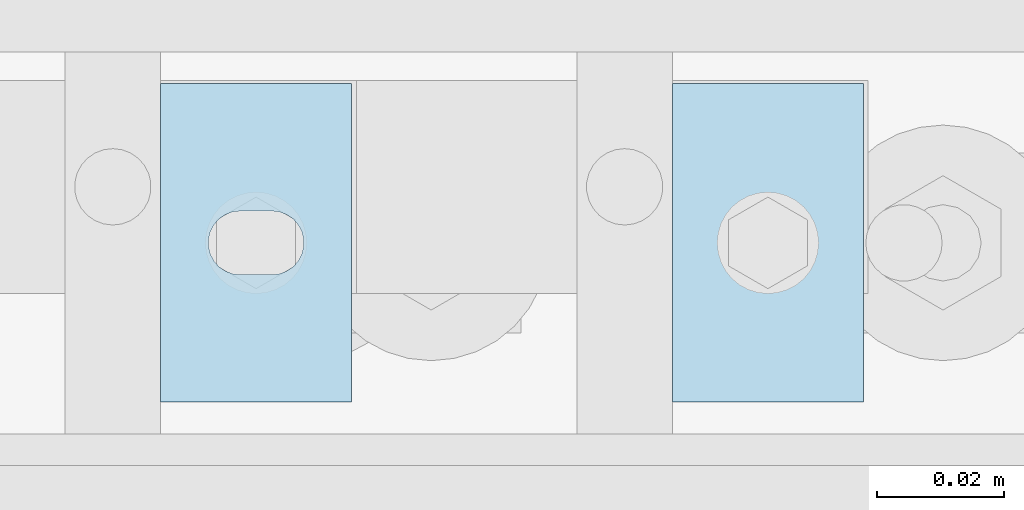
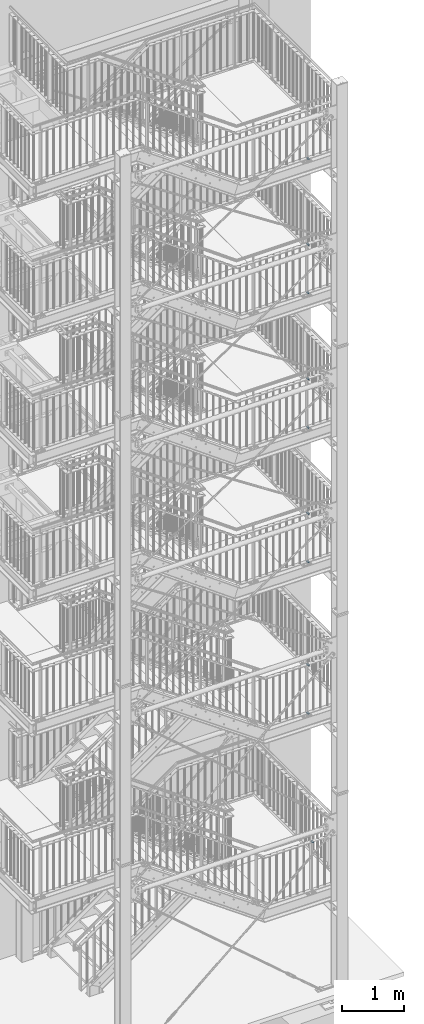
# One storey, part 227 of 825: 10 plates, 10 openings.
"""IFC2X3 building model written with IfcOpenShell, lengths in millimetres."""

from ifc_helpers import new_model, entity, si_unit, converted_unit, point, frame, frame_2d, origin, origin_with_axes, place, context, project, spatial, polyline, circle_curve, line_curve, trimmed, segment, composite_curve, outline, extrude, material, layer, layer_set, element, save


model = new_model("IFC2X3")

# Units and contexts
model_context = context("Model", 3, precision=1e-09, world=origin_with_axes())
ifc_project = project(units=[si_unit("LENGTHUNIT", "METRE", prefix="MILLI"), si_unit("AREAUNIT", "SQUARE_METRE"), si_unit("VOLUMEUNIT", "CUBIC_METRE"), converted_unit("PLANEANGLEUNIT", "DEGREE", entity("IfcPlaneAngleMeasure", 0.01745329), si_unit("PLANEANGLEUNIT", "RADIAN"), dimensions=[0, 0, 0, 0, 0, 0, 0])], contexts=[model_context])

# Site, building, storey
site_placement = place(None, origin_with_axes())
site = spatial("IfcSite", under=ifc_project, at=site_placement, Name="Cnopf'sche Kinderklinik", CompositionType="ELEMENT")
building_placement = place(site_placement, origin_with_axes())
building = spatial("IfcBuilding", under=site, at=building_placement, Name="Struktur 1", CompositionType="ELEMENT")
storey_placement = place(building_placement, origin_with_axes())
storey = spatial("IfcBuildingStorey", under=building, at=storey_placement, Name="Default Storey", CompositionType="ELEMENT", Elevation=0.0)

# Plate, opening
ifc_material = material(Name="S235JR")
ifc_layer = layer(ifc_material, 6.0)
ifc_layer_set = layer_set([ifc_layer], Name="S235JR")
plate_1_placement = place(None, frame((8452.674109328, 4526.736971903, 3183.8526312), z_axis=(0.0, 0.0, 1.0), x_axis=(1.0, 0.0, 0.0)))
plate_1 = element("IfcPlate", 1, at=plate_1_placement, inside=storey, material=ifc_layer_set, Name="-", ObjectType="-", context=model_context, shape_type="SweptSolid", body=[
    extrude(outline(polyline([(-15.0, -25.0), (15.0, -25.0), (15.0, 25.0), (-15.0, 25.0), (-15.0, -25.0)])), origin_with_axes(), (0.0, 0.0, 1.0), 6.0),
])
opening_1_placement = place(plate_1_placement, frame((-1e-09, 0.0, -0.5), z_axis=(0.0, 0.0, 1.0), x_axis=(1.0, 0.0, 0.0)))
element("IfcOpeningElement", 2, at=opening_1_placement, cuts=plate_1, ObjectType="Opening", context=model_context, shape_type="SweptSolid", body=[
    extrude(outline(composite_curve([segment(trimmed(line_curve((-2.5, -5.001), (1.0, 0.0), 5.0), [point((-2.5, -5.001))], [point((2.5, -5.001))], True, "CARTESIAN"), True, "CONTINUOUS"), segment(trimmed(circle_curve(frame_2d((2.5, 0.0), x_axis=(1.0, 0.0)), 5.001), [point((2.5, -5.001))], [point((2.5, 5.001))], True, "CARTESIAN"), True, "CONTINUOUS"), segment(trimmed(line_curve((2.5, 5.001), (-1.0, 0.0), 5.0), [point((2.5, 5.001))], [point((-2.5, 5.001))], True, "CARTESIAN"), True, "CONTINUOUS"), segment(trimmed(circle_curve(frame_2d((-2.5, 0.0), x_axis=(1.0, 0.0)), 5.001), [point((-2.5, 5.001))], [point((-2.5, -5.001))], True, "CARTESIAN"), True, "CONTINUOUS")], self_intersect=False)), origin(), (0.0, 0.0, 1.0), 7.0),
])

plate_2_placement = place(None, frame((8372.292260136, 4526.736971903, 5728.8947367), z_axis=(0.0, 0.0, 1.0), x_axis=(1.0, 0.0, 0.0)))
plate_2 = element("IfcPlate", 3, at=plate_2_placement, inside=storey, material=ifc_layer_set, Name="-", ObjectType="-", context=model_context, shape_type="SweptSolid", body=[
    extrude(outline(polyline([(-15.0, -25.0), (15.0, -25.0), (15.0, 25.0), (-15.0, 25.0), (-15.0, -25.0)])), origin_with_axes(), (0.0, 0.0, 1.0), 6.0),
])
opening_2_placement = place(plate_2_placement, frame((-1e-09, 0.0, -0.5), z_axis=(0.0, 0.0, 1.0), x_axis=(1.0, 0.0, 0.0)))
element("IfcOpeningElement", 4, at=opening_2_placement, cuts=plate_2, ObjectType="Opening", context=model_context, shape_type="SweptSolid", body=[
    extrude(outline(composite_curve([segment(trimmed(line_curve((-2.5, -5.001), (1.0, 0.0), 5.0), [point((-2.5, -5.001))], [point((2.5, -5.001))], True, "CARTESIAN"), True, "CONTINUOUS"), segment(trimmed(circle_curve(frame_2d((2.5, 0.0), x_axis=(1.0, 0.0)), 5.001), [point((2.5, -5.001))], [point((2.5, 5.001))], True, "CARTESIAN"), True, "CONTINUOUS"), segment(trimmed(line_curve((2.5, 5.001), (-1.0, 0.0), 5.0), [point((2.5, 5.001))], [point((-2.5, 5.001))], True, "CARTESIAN"), True, "CONTINUOUS"), segment(trimmed(circle_curve(frame_2d((-2.5, 0.0), x_axis=(1.0, 0.0)), 5.001), [point((-2.5, 5.001))], [point((-2.5, -5.001))], True, "CARTESIAN"), True, "CONTINUOUS")], self_intersect=False)), origin(), (0.0, 0.0, 1.0), 7.0),
])

plate_3_placement = place(None, frame((8372.292260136, 4526.736971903, 6677.6947367), z_axis=(0.0, 0.0, 1.0), x_axis=(1.0, 0.0, 0.0)))
plate_3 = element("IfcPlate", 5, at=plate_3_placement, inside=storey, material=ifc_layer_set, Name="-", ObjectType="-", context=model_context, shape_type="SweptSolid", body=[
    extrude(outline(polyline([(-15.0, -25.0), (15.0, -25.0), (15.0, 25.0), (-15.0, 25.0), (-15.0, -25.0)])), origin_with_axes(), (0.0, 0.0, 1.0), 6.0),
])
opening_3_placement = place(plate_3_placement, frame((-1e-09, 0.0, -0.5), z_axis=(0.0, 0.0, 1.0), x_axis=(1.0, 0.0, 0.0)))
element("IfcOpeningElement", 6, at=opening_3_placement, cuts=plate_3, ObjectType="Opening", context=model_context, shape_type="SweptSolid", body=[
    extrude(outline(composite_curve([segment(trimmed(line_curve((-2.5, -5.001), (1.0, 0.0), 5.0), [point((-2.5, -5.001))], [point((2.5, -5.001))], True, "CARTESIAN"), True, "CONTINUOUS"), segment(trimmed(circle_curve(frame_2d((2.5, 0.0), x_axis=(1.0, 0.0)), 5.001), [point((2.5, -5.001))], [point((2.5, 5.001))], True, "CARTESIAN"), True, "CONTINUOUS"), segment(trimmed(line_curve((2.5, 5.001), (-1.0, 0.0), 5.0), [point((2.5, 5.001))], [point((-2.5, 5.001))], True, "CARTESIAN"), True, "CONTINUOUS"), segment(trimmed(circle_curve(frame_2d((-2.5, 0.0), x_axis=(1.0, 0.0)), 5.001), [point((-2.5, 5.001))], [point((-2.5, -5.001))], True, "CARTESIAN"), True, "CONTINUOUS")], self_intersect=False)), origin(), (0.0, 0.0, 1.0), 7.0),
])

plate_4_placement = place(None, frame((8372.292260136, 4526.736971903, 8690.0), z_axis=(0.0, 0.0, 1.0), x_axis=(1.0, 0.0, 0.0)))
plate_4 = element("IfcPlate", 7, at=plate_4_placement, inside=storey, material=ifc_layer_set, Name="-", ObjectType="-", context=model_context, shape_type="SweptSolid", body=[
    extrude(outline(polyline([(-15.0, -25.0), (15.0, -25.0), (15.0, 25.0), (-15.0, 25.0), (-15.0, -25.0)])), origin_with_axes(), (0.0, 0.0, 1.0), 6.0),
])
opening_4_placement = place(plate_4_placement, frame((-1e-09, 0.0, -0.5), z_axis=(0.0, 0.0, 1.0), x_axis=(1.0, 0.0, 0.0)))
element("IfcOpeningElement", 8, at=opening_4_placement, cuts=plate_4, ObjectType="Opening", context=model_context, shape_type="SweptSolid", body=[
    extrude(outline(composite_curve([segment(trimmed(line_curve((-2.5, -5.001), (1.0, 0.0), 5.0), [point((-2.5, -5.001))], [point((2.5, -5.001))], True, "CARTESIAN"), True, "CONTINUOUS"), segment(trimmed(circle_curve(frame_2d((2.5, 0.0), x_axis=(1.0, 0.0)), 5.001), [point((2.5, -5.001))], [point((2.5, 5.001))], True, "CARTESIAN"), True, "CONTINUOUS"), segment(trimmed(line_curve((2.5, 5.001), (-1.0, 0.0), 5.0), [point((2.5, 5.001))], [point((-2.5, 5.001))], True, "CARTESIAN"), True, "CONTINUOUS"), segment(trimmed(circle_curve(frame_2d((-2.5, 0.0), x_axis=(1.0, 0.0)), 5.001), [point((-2.5, 5.001))], [point((-2.5, -5.001))], True, "CARTESIAN"), True, "CONTINUOUS")], self_intersect=False)), origin(), (0.0, 0.0, 1.0), 7.0),
])

plate_5_placement = place(None, frame((8372.292260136, 4526.736971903, 9638.8), z_axis=(0.0, 0.0, 1.0), x_axis=(1.0, 0.0, 0.0)))
plate_5 = element("IfcPlate", 9, at=plate_5_placement, inside=storey, material=ifc_layer_set, Name="-", ObjectType="-", context=model_context, shape_type="SweptSolid", body=[
    extrude(outline(polyline([(-15.0, -25.0), (15.0, -25.0), (15.0, 25.0), (-15.0, 25.0), (-15.0, -25.0)])), origin_with_axes(), (0.0, 0.0, 1.0), 6.0),
])
opening_5_placement = place(plate_5_placement, frame((-1e-09, 0.0, -0.5), z_axis=(0.0, 0.0, 1.0), x_axis=(1.0, 0.0, 0.0)))
element("IfcOpeningElement", 10, at=opening_5_placement, cuts=plate_5, ObjectType="Opening", context=model_context, shape_type="SweptSolid", body=[
    extrude(outline(composite_curve([segment(trimmed(line_curve((-2.5, -5.001), (1.0, 0.0), 5.0), [point((-2.5, -5.001))], [point((2.5, -5.001))], True, "CARTESIAN"), True, "CONTINUOUS"), segment(trimmed(circle_curve(frame_2d((2.5, 0.0), x_axis=(1.0, 0.0)), 5.001), [point((2.5, -5.001))], [point((2.5, 5.001))], True, "CARTESIAN"), True, "CONTINUOUS"), segment(trimmed(line_curve((2.5, 5.001), (-1.0, 0.0), 5.0), [point((2.5, 5.001))], [point((-2.5, 5.001))], True, "CARTESIAN"), True, "CONTINUOUS"), segment(trimmed(circle_curve(frame_2d((-2.5, 0.0), x_axis=(1.0, 0.0)), 5.001), [point((-2.5, 5.001))], [point((-2.5, -5.001))], True, "CARTESIAN"), True, "CONTINUOUS")], self_intersect=False)), origin(), (0.0, 0.0, 1.0), 7.0),
])

plate_6_placement = place(None, frame((8372.292260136, 4526.736971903, 11319.5000003), z_axis=(0.0, 0.0, 1.0), x_axis=(1.0, 0.0, 0.0)))
plate_6 = element("IfcPlate", 11, at=plate_6_placement, inside=storey, material=ifc_layer_set, Name="-", ObjectType="-", context=model_context, shape_type="SweptSolid", body=[
    extrude(outline(polyline([(-15.0, -25.0), (15.0, -25.0), (15.0, 25.0), (-15.0, 25.0), (-15.0, -25.0)])), origin_with_axes(), (0.0, 0.0, 1.0), 6.0),
])
opening_6_placement = place(plate_6_placement, frame((-1e-09, 0.0, -0.5), z_axis=(0.0, 0.0, 1.0), x_axis=(1.0, 0.0, 0.0)))
element("IfcOpeningElement", 12, at=opening_6_placement, cuts=plate_6, ObjectType="Opening", context=model_context, shape_type="SweptSolid", body=[
    extrude(outline(composite_curve([segment(trimmed(line_curve((-2.5, -5.001), (1.0, 0.0), 5.0), [point((-2.5, -5.001))], [point((2.5, -5.001))], True, "CARTESIAN"), True, "CONTINUOUS"), segment(trimmed(circle_curve(frame_2d((2.5, 0.0), x_axis=(1.0, 0.0)), 5.001), [point((2.5, -5.001))], [point((2.5, 5.001))], True, "CARTESIAN"), True, "CONTINUOUS"), segment(trimmed(line_curve((2.5, 5.001), (-1.0, 0.0), 5.0), [point((2.5, 5.001))], [point((-2.5, 5.001))], True, "CARTESIAN"), True, "CONTINUOUS"), segment(trimmed(circle_curve(frame_2d((-2.5, 0.0), x_axis=(1.0, 0.0)), 5.001), [point((-2.5, 5.001))], [point((-2.5, -5.001))], True, "CARTESIAN"), True, "CONTINUOUS")], self_intersect=False)), origin(), (0.0, 0.0, 1.0), 7.0),
])

plate_7_placement = place(None, frame((8372.292260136, 4526.736971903, 12268.3000003), z_axis=(0.0, 0.0, 1.0), x_axis=(1.0, 0.0, 0.0)))
plate_7 = element("IfcPlate", 13, at=plate_7_placement, inside=storey, material=ifc_layer_set, Name="-", ObjectType="-", context=model_context, shape_type="SweptSolid", body=[
    extrude(outline(polyline([(-15.0, -25.0), (15.0, -25.0), (15.0, 25.0), (-15.0, 25.0), (-15.0, -25.0)])), origin_with_axes(), (0.0, 0.0, 1.0), 6.0),
])
opening_7_placement = place(plate_7_placement, frame((-1e-09, 0.0, -0.5), z_axis=(0.0, 0.0, 1.0), x_axis=(1.0, 0.0, 0.0)))
element("IfcOpeningElement", 14, at=opening_7_placement, cuts=plate_7, ObjectType="Opening", context=model_context, shape_type="SweptSolid", body=[
    extrude(outline(composite_curve([segment(trimmed(line_curve((-2.5, -5.001), (1.0, 0.0), 5.0), [point((-2.5, -5.001))], [point((2.5, -5.001))], True, "CARTESIAN"), True, "CONTINUOUS"), segment(trimmed(circle_curve(frame_2d((2.5, 0.0), x_axis=(1.0, 0.0)), 5.001), [point((2.5, -5.001))], [point((2.5, 5.001))], True, "CARTESIAN"), True, "CONTINUOUS"), segment(trimmed(line_curve((2.5, 5.001), (-1.0, 0.0), 5.0), [point((2.5, 5.001))], [point((-2.5, 5.001))], True, "CARTESIAN"), True, "CONTINUOUS"), segment(trimmed(circle_curve(frame_2d((-2.5, 0.0), x_axis=(1.0, 0.0)), 5.001), [point((-2.5, 5.001))], [point((-2.5, -5.001))], True, "CARTESIAN"), True, "CONTINUOUS")], self_intersect=False)), origin(), (0.0, 0.0, 1.0), 7.0),
])

plate_8_placement = place(None, frame((8372.292260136, 4526.736971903, 13950.5000001), z_axis=(0.0, 0.0, 1.0), x_axis=(1.0, 0.0, 0.0)))
plate_8 = element("IfcPlate", 15, at=plate_8_placement, inside=storey, material=ifc_layer_set, Name="-", ObjectType="-", context=model_context, shape_type="SweptSolid", body=[
    extrude(outline(polyline([(-15.0, -25.0), (15.0, -25.0), (15.0, 25.0), (-15.0, 25.0), (-15.0, -25.0)])), origin_with_axes(), (0.0, 0.0, 1.0), 6.0),
])
opening_8_placement = place(plate_8_placement, frame((-1e-09, 0.0, -0.5), z_axis=(0.0, 0.0, 1.0), x_axis=(1.0, 0.0, 0.0)))
element("IfcOpeningElement", 16, at=opening_8_placement, cuts=plate_8, ObjectType="Opening", context=model_context, shape_type="SweptSolid", body=[
    extrude(outline(composite_curve([segment(trimmed(line_curve((-2.5, -5.001), (1.0, 0.0), 5.0), [point((-2.5, -5.001))], [point((2.5, -5.001))], True, "CARTESIAN"), True, "CONTINUOUS"), segment(trimmed(circle_curve(frame_2d((2.5, 0.0), x_axis=(1.0, 0.0)), 5.001), [point((2.5, -5.001))], [point((2.5, 5.001))], True, "CARTESIAN"), True, "CONTINUOUS"), segment(trimmed(line_curve((2.5, 5.001), (-1.0, 0.0), 5.0), [point((2.5, 5.001))], [point((-2.5, 5.001))], True, "CARTESIAN"), True, "CONTINUOUS"), segment(trimmed(circle_curve(frame_2d((-2.5, 0.0), x_axis=(1.0, 0.0)), 5.001), [point((-2.5, 5.001))], [point((-2.5, -5.001))], True, "CARTESIAN"), True, "CONTINUOUS")], self_intersect=False)), origin(), (0.0, 0.0, 1.0), 7.0),
])

plate_9_placement = place(None, frame((8372.292260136, 4526.736971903, 14899.3000001), z_axis=(0.0, 0.0, 1.0), x_axis=(1.0, 0.0, 0.0)))
plate_9 = element("IfcPlate", 17, at=plate_9_placement, inside=storey, material=ifc_layer_set, Name="-", ObjectType="-", context=model_context, shape_type="SweptSolid", body=[
    extrude(outline(polyline([(-15.0, -25.0), (15.0, -25.0), (15.0, 25.0), (-15.0, 25.0), (-15.0, -25.0)])), origin_with_axes(), (0.0, 0.0, 1.0), 6.0),
])
opening_9_placement = place(plate_9_placement, frame((-1e-09, 0.0, -0.5), z_axis=(0.0, 0.0, 1.0), x_axis=(1.0, 0.0, 0.0)))
element("IfcOpeningElement", 18, at=opening_9_placement, cuts=plate_9, ObjectType="Opening", context=model_context, shape_type="SweptSolid", body=[
    extrude(outline(composite_curve([segment(trimmed(line_curve((-2.5, -5.001), (1.0, 0.0), 5.0), [point((-2.5, -5.001))], [point((2.5, -5.001))], True, "CARTESIAN"), True, "CONTINUOUS"), segment(trimmed(circle_curve(frame_2d((2.5, 0.0), x_axis=(1.0, 0.0)), 5.001), [point((2.5, -5.001))], [point((2.5, 5.001))], True, "CARTESIAN"), True, "CONTINUOUS"), segment(trimmed(line_curve((2.5, 5.001), (-1.0, 0.0), 5.0), [point((2.5, 5.001))], [point((-2.5, 5.001))], True, "CARTESIAN"), True, "CONTINUOUS"), segment(trimmed(circle_curve(frame_2d((-2.5, 0.0), x_axis=(1.0, 0.0)), 5.001), [point((-2.5, 5.001))], [point((-2.5, -5.001))], True, "CARTESIAN"), True, "CONTINUOUS")], self_intersect=False)), origin(), (0.0, 0.0, 1.0), 7.0),
])

plate_10_placement = place(None, frame((8372.292260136, 4526.736971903, 16578.0000003), z_axis=(0.0, 0.0, 1.0), x_axis=(1.0, 0.0, 0.0)))
plate_10 = element("IfcPlate", 19, at=plate_10_placement, inside=storey, material=ifc_layer_set, Name="-", ObjectType="-", context=model_context, shape_type="SweptSolid", body=[
    extrude(outline(polyline([(-15.0, -25.0), (15.0, -25.0), (15.0, 25.0), (-15.0, 25.0), (-15.0, -25.0)])), origin_with_axes(), (0.0, 0.0, 1.0), 6.0),
])
opening_10_placement = place(plate_10_placement, frame((-1e-09, 0.0, -0.5), z_axis=(0.0, 0.0, 1.0), x_axis=(1.0, 0.0, 0.0)))
element("IfcOpeningElement", 20, at=opening_10_placement, cuts=plate_10, ObjectType="Opening", context=model_context, shape_type="SweptSolid", body=[
    extrude(outline(composite_curve([segment(trimmed(line_curve((-2.5, -5.001), (1.0, 0.0), 5.0), [point((-2.5, -5.001))], [point((2.5, -5.001))], True, "CARTESIAN"), True, "CONTINUOUS"), segment(trimmed(circle_curve(frame_2d((2.5, 0.0), x_axis=(1.0, 0.0)), 5.001), [point((2.5, -5.001))], [point((2.5, 5.001))], True, "CARTESIAN"), True, "CONTINUOUS"), segment(trimmed(line_curve((2.5, 5.001), (-1.0, 0.0), 5.0), [point((2.5, 5.001))], [point((-2.5, 5.001))], True, "CARTESIAN"), True, "CONTINUOUS"), segment(trimmed(circle_curve(frame_2d((-2.5, 0.0), x_axis=(1.0, 0.0)), 5.001), [point((-2.5, 5.001))], [point((-2.5, -5.001))], True, "CARTESIAN"), True, "CONTINUOUS")], self_intersect=False)), origin(), (0.0, 0.0, 1.0), 7.0),
])

save(model, "model.ifc")
